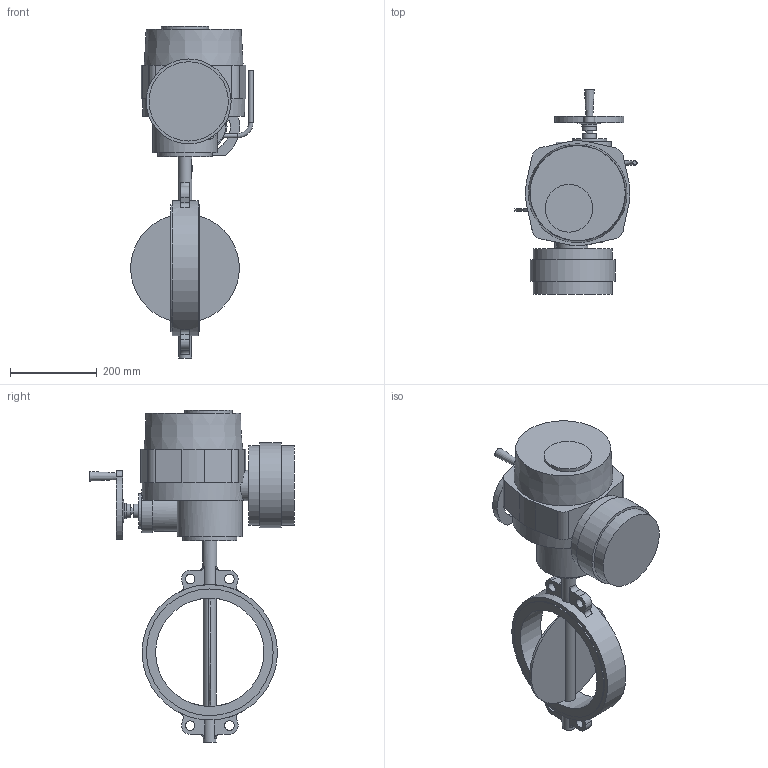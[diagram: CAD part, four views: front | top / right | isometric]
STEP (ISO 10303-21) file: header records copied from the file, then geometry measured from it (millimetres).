
FILE_DESCRIPTION(('STEP AP203'), '1');
FILE_NAME('青蜮铕 017W.Y_DN250_PN10_QT.A 050', '', ('UNSPECIFIED'), ('UNSPECIFIED'), 'ASCON STEP Converter 1.6', 'ASCON Math Kernel', '');
FILE_SCHEMA(('CONFIG_CONTROL_DESIGN'));
Length unit declared in the file: millimetre
Bounding box: 281.75 x 472 x 766 mm (x, y, z)
Volume: 16862105.7 mm3; surface area: 803929.8 mm2
Topology: 1 solids, 1 shells, 186 faces, 438 edges, 287 vertices
Faces by surface type: plane 102, cylinder 76, torus 5, cone 3
Full cylindrical faces by diameter (mm): 6.7 x8, 10 x2, 12 x4, 16 x1, 22 x4, 30 x2, 32 x3, 35 x1, 70 x1, 80 x1, 100 x1, 110 x1, 125 x1, 150 x1, 183 x2, 196 x1, 250 x1, 292.4 x2, 312.4 x1
Entity records: 8687 total; most frequent: CARTESIAN_POINT 2870, DIRECTION 937, ORIENTED_EDGE 792, EDGE_CURVE 396, AXIS2_PLACEMENT_3D 384, VERTEX_POINT 287, EDGE_LOOP 279, FACE_BOUND 205
